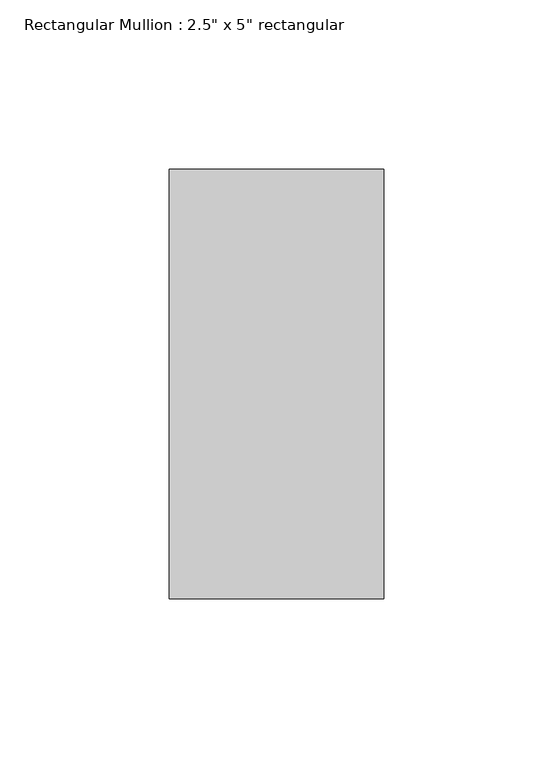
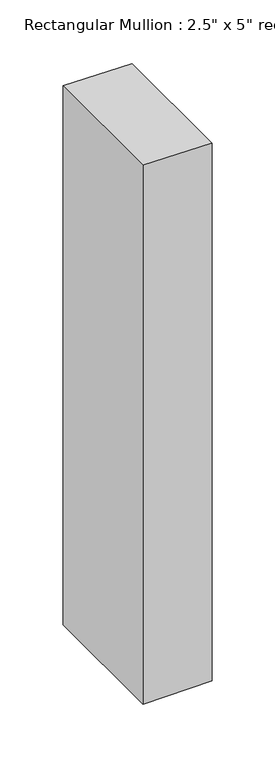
"""IFC4 building model written with IfcOpenShell, lengths in millimetres: member geometry."""

from ifc_helpers import new_model, si_unit, frame, origin, place, context, project, spatial, polyline, outline, extrude, source, transform, mapped, element, save


def member_5437e2d3(model_context):
    return source(origin(), model_context, "Body", "SweptSolid", [
        extrude(outline(polyline([(0.0, 0.0), (0.6562711, -63.5), (-521.9413618, -63.5), (-521.2488761, 0.0), (0.0, 0.0)])), frame((0.0, -63.5, 0.0), z_axis=(0.0, 1.0, 0.0), x_axis=(0.0, 0.0, 1.0)), (0.0, 0.0, 1.0), 127.0),
    ])


if __name__ == "__main__":
    model = new_model("IFC4")
    model_context = context("Model", 3, world=origin())
    ifc_project = project(units=[si_unit("LENGTHUNIT", "METRE", prefix="MILLI")], contexts=[model_context])
    site = spatial("IfcSite", under=ifc_project)
    building = spatial("IfcBuilding", under=site)
    placement = place(None, origin())
    member_shape = member_5437e2d3(model_context)
    element("IfcMember", 1, ObjectType="Rectangular Mullion : 2.5\" x 5\" rectangular", at=placement, inside=building, context=model_context, shape_type="MappedRepresentation", body=[
        mapped(member_shape, transform((0.0, 0.0, 0.0), x_axis=(1.0, 0.0, 0.0), y_axis=(0.0, 1.0, 0.0), z_axis=(0.0, 0.0, 1.0))),
    ])
    save(model, "model.ifc")
